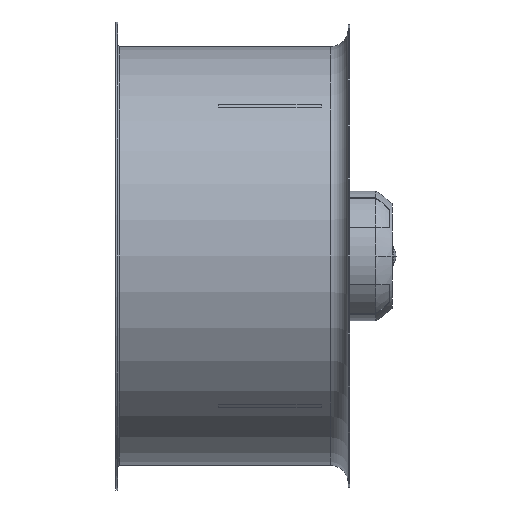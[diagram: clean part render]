
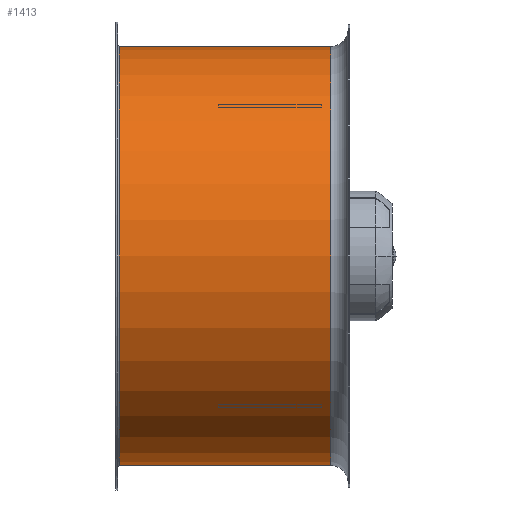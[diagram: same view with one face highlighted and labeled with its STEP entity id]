
A CAD part, front view. The second image highlights one B-rep face of the part: STEP entity #1413.
In plain terms, the highlighted cylindrical face has radius 358 mm (diameter 716 mm), a partial arc.
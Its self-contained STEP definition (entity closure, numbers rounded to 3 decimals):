
#1261 = VERTEX_POINT ( 'NONE', #14609 ) ;
#1413 = ADVANCED_FACE ( 'NONE', ( #57624 ), #47028, .T. ) ;
#4830 = DIRECTION ( 'NONE',  ( 0., 0., 1. ) ) ;
#8995 = AXIS2_PLACEMENT_3D ( 'NONE', #40777, #53183, #65835 ) ;
#10368 = CARTESIAN_POINT ( 'NONE',  ( -244., 0., 0. ) ) ;
#11068 = DIRECTION ( 'NONE',  ( -1., 0., 0. ) ) ;
#12156 = CARTESIAN_POINT ( 'NONE',  ( 117., 0., -358. ) ) ;
#13491 = EDGE_LOOP ( 'NONE', ( #46190, #32826, #18990, #72445 ) ) ;
#14609 = CARTESIAN_POINT ( 'NONE',  ( -244., 0., 358. ) ) ;
#16982 = CARTESIAN_POINT ( 'NONE',  ( 117., 0., 0. ) ) ;
#18067 = CARTESIAN_POINT ( 'NONE',  ( 117., 0., 358. ) ) ;
#18990 = ORIENTED_EDGE ( 'NONE', *, *, #68954, .T. ) ;
#23256 = DIRECTION ( 'NONE',  ( -1., 0., 0. ) ) ;
#24425 = VERTEX_POINT ( 'NONE', #12156 ) ;
#30588 = VECTOR ( 'NONE', #23256, 1000. ) ;
#31553 = EDGE_CURVE ( 'NONE', #24425, #41931, #74877, .T. ) ;
#32826 = ORIENTED_EDGE ( 'NONE', *, *, #57187, .T. ) ;
#37628 = VERTEX_POINT ( 'NONE', #18067 ) ;
#39444 = CIRCLE ( 'NONE', #61937, 358. ) ;
#40777 = CARTESIAN_POINT ( 'NONE',  ( -882.213, 0., 0. ) ) ;
#41931 = VERTEX_POINT ( 'NONE', #57460 ) ;
#46190 = ORIENTED_EDGE ( 'NONE', *, *, #31553, .F. ) ;
#47028 = CYLINDRICAL_SURFACE ( 'NONE', #8995, 358. ) ;
#48070 = CARTESIAN_POINT ( 'NONE',  ( -882.213, 0., -358. ) ) ;
#53100 = EDGE_CURVE ( 'NONE', #41931, #1261, #39444, .T. ) ;
#53183 = DIRECTION ( 'NONE',  ( -1., 0., 0. ) ) ;
#56003 = DIRECTION ( 'NONE',  ( -1., 0., 0. ) ) ;
#57187 = EDGE_CURVE ( 'NONE', #24425, #37628, #61265, .T. ) ;
#57460 = CARTESIAN_POINT ( 'NONE',  ( -244., 0., -358. ) ) ;
#57624 = FACE_OUTER_BOUND ( 'NONE', #13491, .T. ) ;
#57954 = LINE ( 'NONE', #62725, #71424 ) ;
#61265 = CIRCLE ( 'NONE', #61588, 358. ) ;
#61588 = AXIS2_PLACEMENT_3D ( 'NONE', #16982, #11068, #4830 ) ;
#61937 = AXIS2_PLACEMENT_3D ( 'NONE', #10368, #65091, #71782 ) ;
#62725 = CARTESIAN_POINT ( 'NONE',  ( -882.213, 0., 358. ) ) ;
#65091 = DIRECTION ( 'NONE',  ( -1., 0., 0. ) ) ;
#65835 = DIRECTION ( 'NONE',  ( 0., 0., 1. ) ) ;
#68954 = EDGE_CURVE ( 'NONE', #37628, #1261, #57954, .T. ) ;
#71424 = VECTOR ( 'NONE', #56003, 1000. ) ;
#71782 = DIRECTION ( 'NONE',  ( 0., 0., 1. ) ) ;
#72445 = ORIENTED_EDGE ( 'NONE', *, *, #53100, .F. ) ;
#74877 = LINE ( 'NONE', #48070, #30588 ) ;
